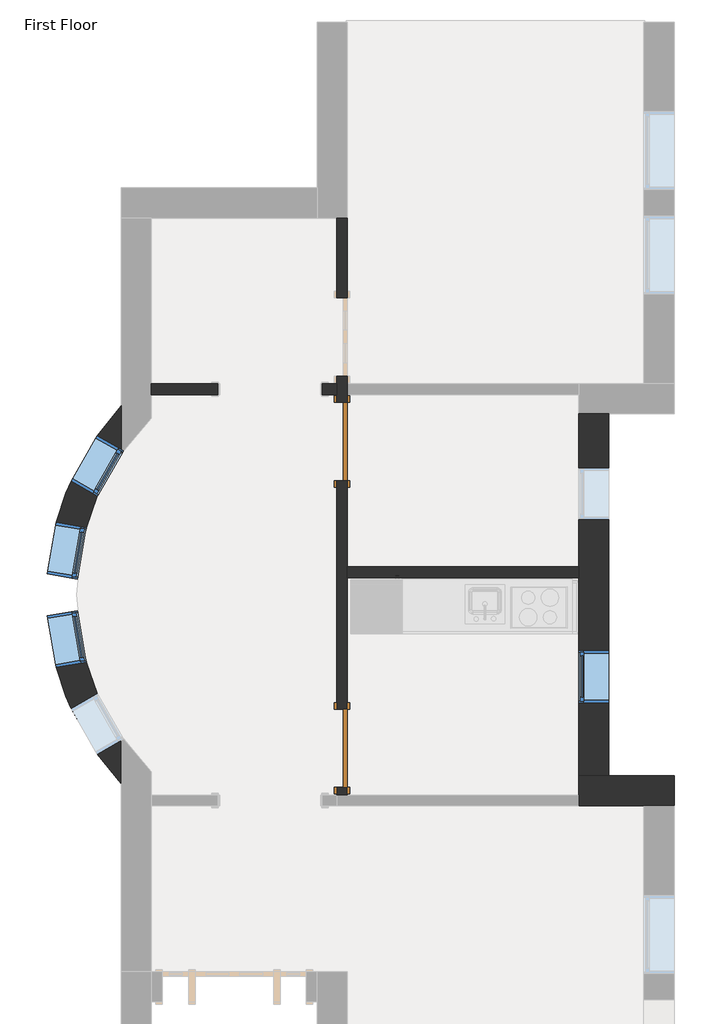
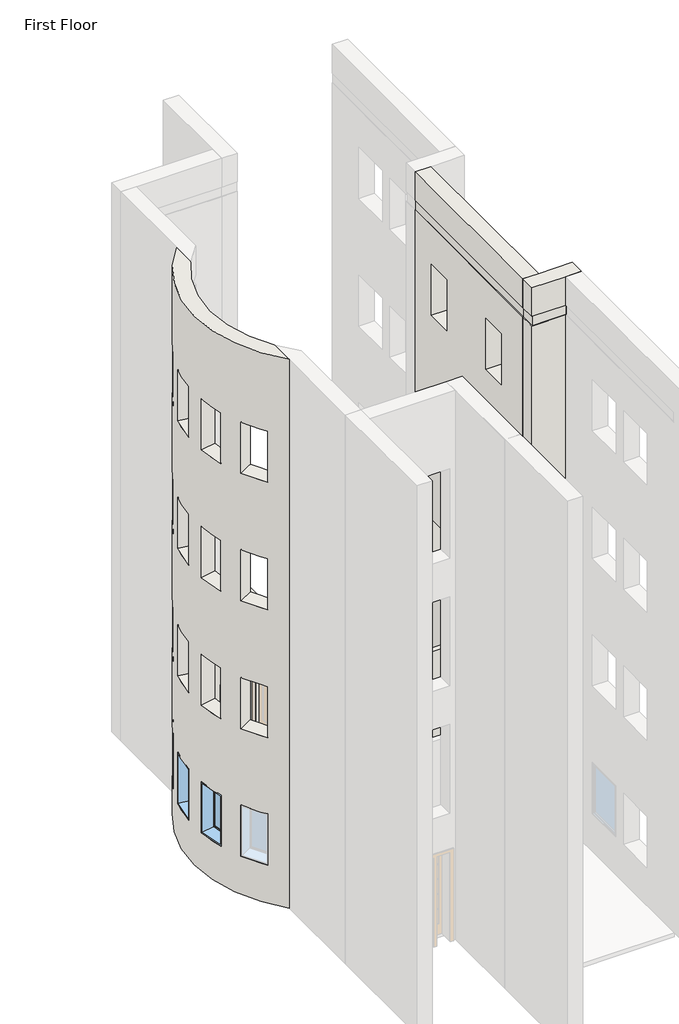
# One storey, part 7 of 23: 6 walls, 4 windows, 2 doors.
"""IFC4 building model written with IfcOpenShell, lengths in millimetres."""

from ifc_helpers import new_model, si_unit, frame, origin, origin_with_axes, place, context, project, spatial, polyline, circle_curve, outline, extrude, faceted_brep, transform, mapped, element, save
from ifc_brep_helpers import plane_surface, cylinder_surface, revolved_surface, advanced_brep
from components import door_a1797ceb, door_a3eb833a, window_60baf983, window_ed80354a

model = new_model("IFC4")

# Units and contexts
model_context = context("Model", 3, world=origin())
ifc_project = project(units=[si_unit("LENGTHUNIT", "METRE", prefix="MILLI")], contexts=[model_context])

# Site, building, storey
site = spatial("IfcSite", under=ifc_project)
building = spatial("IfcBuilding", under=site)
storey = spatial("IfcBuildingStorey", under=building, Name="First Floor", Elevation=0.0)

# Doors
placement = place(None, origin())
door_shape = door_a1797ceb(model_context)
element("IfcDoor", 1, ObjectType="Single-Flush : 36\" x 84\"", at=placement, inside=storey, context=model_context, shape_type="MappedRepresentation", body=[
    mapped(door_shape, transform((-3900.4589563, -20451.2808133, 0.0), x_axis=(0.0, -1.0, 0.0), y_axis=(1.0, 0.0, 0.0), z_axis=(0.0, 0.0, 1.0))),
])
door_2_shape = door_a3eb833a(model_context)
element("IfcDoor", 2, ObjectType="Single-Flush : 36\" x 84\"", at=placement, inside=storey, context=model_context, shape_type="MappedRepresentation", body=[
    mapped(door_2_shape, transform((-3900.4589563, -16873.0558133, 0.0), x_axis=(0.0, 1.0, 0.0), y_axis=(-1.0, 0.0, 0.0), z_axis=(0.0, 0.0, 1.0))),
])

# Walls
element("IfcWall", 3, ObjectType="Exterior - Brick on Mtl. Stud", at=placement, inside=storey, context=model_context, shape_type="Brep", body=[
    faceted_brep([(-1141.3839563, -16552.3808133, 0.0), (-1141.3839563, -18333.5558133, 0.0), (-1141.3839563, -18460.5558133, 0.0), (-1141.3839563, -20771.9558133, 0.0), (-1141.3839563, -20771.9558133, 12192.0), (-1141.3839563, -18460.5558133, 12192.0), (-1141.3839563, -18333.5558133, 12192.0), (-1141.3839563, -16552.3808133, 12192.0), (-1141.3839563, -17177.8558133, 7010.4), (-1141.3839563, -17177.8558133, 8229.6), (-1141.3839563, -17787.4558133, 8229.6), (-1141.3839563, -17787.4558133, 7010.4), (-1141.3839563, -19311.4558133, 7010.4), (-1141.3839563, -19311.4558133, 8229.6), (-1141.3839563, -19921.0558133, 8229.6), (-1141.3839563, -19921.0558133, 7010.4), (-1141.3839563, -17177.8558133, 3962.4), (-1141.3839563, -17177.8558133, 5181.6), (-1141.3839563, -17787.4558133, 5181.6), (-1141.3839563, -17787.4558133, 3962.4), (-1141.3839563, -19311.4558133, 3962.4), (-1141.3839563, -19311.4558133, 5181.6), (-1141.3839563, -19921.0558133, 5181.6), (-1141.3839563, -19921.0558133, 3962.4), (-1141.3839563, -17177.8558133, 10058.4), (-1141.3839563, -17177.8558133, 11277.6), (-1141.3839563, -17787.4558133, 11277.6), (-1141.3839563, -17787.4558133, 10058.4), (-1141.3839563, -19311.4558133, 10058.4), (-1141.3839563, -19311.4558133, 11277.6), (-1141.3839563, -19921.0558133, 11277.6), (-1141.3839563, -19921.0558133, 10058.4), (-1141.3839563, -17177.8558133, 914.4), (-1141.3839563, -17177.8558133, 2133.6), (-1141.3839563, -17787.4558133, 2133.6), (-1141.3839563, -17787.4558133, 914.4), (-1141.3839563, -19311.4558133, 914.4), (-1141.3839563, -19311.4558133, 2133.6), (-1141.3839563, -19921.0558133, 2133.6), (-1141.3839563, -19921.0558133, 914.4), (-1141.3839563, -20771.9558133, 13106.4), (-1141.3839563, -16552.3808133, 13106.4), (-1141.3839563, -16552.3808133, 12420.6), (-1141.3839563, -20771.9558133, 12420.6), (-788.9589563, -20771.9558133, 0.0), (-788.9589563, -16552.3808133, 0.0), (-788.9589563, -16552.3808133, 13106.4), (-788.9589563, -20771.9558133, 13106.4), (-788.9589563, -17177.8558133, 8229.6), (-788.9589563, -17177.8558133, 7010.4), (-788.9589563, -17787.4558133, 7010.4), (-788.9589563, -17787.4558133, 8229.6), (-788.9589563, -19311.4558133, 8229.6), (-788.9589563, -19311.4558133, 7010.4), (-788.9589563, -19921.0558133, 7010.4), (-788.9589563, -19921.0558133, 8229.6), (-788.9589563, -17177.8558133, 5181.6), (-788.9589563, -17177.8558133, 3962.4), (-788.9589563, -17787.4558133, 3962.4), (-788.9589563, -17787.4558133, 5181.6), (-788.9589563, -19311.4558133, 5181.6), (-788.9589563, -19311.4558133, 3962.4), (-788.9589563, -19921.0558133, 3962.4), (-788.9589563, -19921.0558133, 5181.6), (-788.9589563, -17177.8558133, 11277.6), (-788.9589563, -17177.8558133, 10058.4), (-788.9589563, -17787.4558133, 10058.4), (-788.9589563, -17787.4558133, 11277.6), (-788.9589563, -19311.4558133, 11277.6), (-788.9589563, -19311.4558133, 10058.4), (-788.9589563, -19921.0558133, 10058.4), (-788.9589563, -19921.0558133, 11277.6), (-788.9589563, -17177.8558133, 2133.6), (-788.9589563, -17177.8558133, 914.4), (-788.9589563, -17787.4558133, 914.4), (-788.9589563, -17787.4558133, 2133.6), (-788.9589563, -19311.4558133, 2133.6), (-788.9589563, -19311.4558133, 914.4), (-788.9589563, -19921.0558133, 914.4), (-788.9589563, -19921.0558133, 2133.6), (-1128.6839563, -16552.3808133, 12192.0), (-1128.6839563, -16552.3808133, 12420.6), (-1128.6839563, -20771.9558133, 12420.6), (-1128.6839563, -20771.9558133, 12192.0)], [[[0, 1, 2, 3, 4, 5, 6, 7], [8, 9, 10, 11], [12, 13, 14, 15], [16, 17, 18, 19], [20, 21, 22, 23], [24, 25, 26, 27], [28, 29, 30, 31], [32, 33, 34, 35], [36, 37, 38, 39]], [[40, 41, 42, 43]], [[44, 45, 46, 47], [48, 49, 50, 51], [52, 53, 54, 55], [56, 57, 58, 59], [60, 61, 62, 63], [64, 65, 66, 67], [68, 69, 70, 71], [72, 73, 74, 75], [76, 77, 78, 79]], [[3, 2, 1, 0, 45, 44]], [[41, 40, 47, 46]], [[41, 46, 45, 0, 7, 80, 81, 42]], [[3, 44, 47, 40, 43, 82, 83, 4]], [[49, 48, 9, 8]], [[50, 49, 8, 11]], [[51, 50, 11, 10]], [[48, 51, 10, 9]], [[53, 52, 13, 12]], [[54, 53, 12, 15]], [[55, 54, 15, 14]], [[52, 55, 14, 13]], [[57, 56, 17, 16]], [[58, 57, 16, 19]], [[59, 58, 19, 18]], [[56, 59, 18, 17]], [[61, 60, 21, 20]], [[62, 61, 20, 23]], [[63, 62, 23, 22]], [[60, 63, 22, 21]], [[65, 64, 25, 24]], [[66, 65, 24, 27]], [[67, 66, 27, 26]], [[64, 67, 26, 25]], [[69, 68, 29, 28]], [[70, 69, 28, 31]], [[71, 70, 31, 30]], [[68, 71, 30, 29]], [[73, 72, 33, 32]], [[74, 73, 32, 35]], [[75, 74, 35, 34]], [[72, 75, 34, 33]], [[77, 76, 37, 36]], [[78, 77, 36, 39]], [[79, 78, 39, 38]], [[76, 79, 38, 37]], [[83, 80, 7, 6, 5, 4]], [[81, 82, 43, 42]], [[80, 83, 82, 81]]]),
])
element("IfcWall", 4, ObjectType="Exterior - Brick on Mtl. Stud", at=placement, inside=storey, context=model_context, shape_type="Brep", body=[
    faceted_brep([(-1141.3839563, -21124.3808133, 0.0), (-379.3839563, -21124.3808133, 0.0), (-26.9589563, -21124.3808133, 0.0), (-26.9589563, -21124.3808133, 13106.4), (-379.3839563, -21124.3808133, 13106.4), (-1141.3839563, -21124.3808133, 13106.4), (-1141.3839563, -21124.3808133, 12420.6), (-379.3839563, -21124.3808133, 12420.6), (-366.6839563, -21124.3808133, 12420.6), (-366.6839563, -21124.3808133, 12192.0), (-379.3839563, -21124.3808133, 12192.0), (-1141.3839563, -21124.3808133, 12192.0), (-1141.3839563, -21124.3808133, 9144.0), (-1141.3839563, -21124.3808133, 6096.0), (-1141.3839563, -21124.3808133, 3048.0), (-26.9589563, -20771.9558133, 0.0), (-788.9589563, -20771.9558133, 0.0), (-1141.3839563, -20771.9558133, 0.0), (-1141.3839563, -20771.9558133, 12192.0), (-1128.6839563, -20771.9558133, 12192.0), (-1128.6839563, -20771.9558133, 12420.6), (-1141.3839563, -20771.9558133, 12420.6), (-1141.3839563, -20771.9558133, 13106.4), (-788.9589563, -20771.9558133, 13106.4), (-26.9589563, -20771.9558133, 13106.4), (-1141.3839563, -20997.3808133, 0.0), (-1141.3839563, -20997.3808133, 12192.0), (-366.6839563, -21111.6808133, 12192.0), (-1128.6839563, -21111.6808133, 12192.0), (-1128.6839563, -21111.6808133, 12420.6), (-366.6839563, -21111.6808133, 12420.6)], [[[0, 1, 2, 3, 4, 5, 6, 7, 8, 9, 10, 11, 12, 13, 14]], [[15, 16, 17, 18, 19, 20, 21, 22, 23, 24]], [[2, 1, 0, 25, 17, 16, 15]], [[5, 4, 3, 24, 23, 22]], [[17, 25, 0, 14, 13, 12, 11, 26, 18]], [[5, 22, 21, 6]], [[3, 2, 15, 24]], [[27, 28, 19, 18, 26, 11, 10, 9]], [[29, 30, 8, 7, 6, 21, 20]], [[28, 29, 20, 19]], [[28, 27, 30, 29]], [[30, 27, 9, 8]]]),
])
element("IfcWall", 5, ObjectType="Exterior - Brick on Mtl. Stud", at=placement, inside=storey, context=model_context, shape_type="AdvancedBrep", body=[
    advanced_brep(
    [(-6475.3839563, -20308.6589631, 13106.4), (-6475.3839563, -17015.6776635, 13106.4), (-6475.3839563, -16457.7830793, 13106.4), (-6475.3839563, -20866.5535473, 13106.4), (-6475.3839563, -17015.6776635, 0.0), (-6475.3839563, -20308.6589631, 0.0), (-6475.3839563, -20866.5535473, 0.0), (-6475.3839563, -16457.7830793, 0.0), (-6475.3839563, -20308.6589631, 12420.6), (-6475.3839563, -17015.6776635, 12420.6), (-6475.3839563, -17015.6776635, 914.4), (-6752.944107, -17509.893074, 914.4), (-6752.944107, -17509.893074, 2133.6), (-6475.3839563, -17015.6776635, 2133.6), (-6475.3839563, -17015.6776635, 3962.4), (-6752.944107, -17509.893074, 3962.4), (-6752.944107, -17509.893074, 5181.6), (-6475.3839563, -17015.6776635, 5181.6), (-6475.3839563, -17015.6776635, 7010.4), (-6752.944107, -17509.893074, 7010.4), (-6752.944107, -17509.893074, 8229.6), (-6475.3839563, -17015.6776635, 8229.6), (-6475.3839563, -17015.6776635, 10058.4), (-6752.944107, -17509.893074, 10058.4), (-6752.944107, -17509.893074, 11277.6), (-6475.3839563, -17015.6776635, 11277.6), (-6475.3839563, -17015.6776635, 12192.0), (-6475.3839563, -20308.6589631, 12192.0), (-6475.3839563, -20308.6589631, 11277.6), (-6752.944107, -19814.4435526, 11277.6), (-6752.944107, -19814.4435526, 10058.4), (-6475.3839563, -20308.6589631, 10058.4), (-6475.3839563, -20308.6589631, 8229.6), (-6752.944107, -19814.4435526, 8229.6), (-6752.944107, -19814.4435526, 7010.4), (-6475.3839563, -20308.6589631, 7010.4), (-6475.3839563, -20308.6589631, 5181.6), (-6752.944107, -19814.4435526, 5181.6), (-6752.944107, -19814.4435526, 3962.4), (-6475.3839563, -20308.6589631, 3962.4), (-6475.3839563, -20308.6589631, 2133.6), (-6752.944107, -19814.4435526, 2133.6), (-6752.944107, -19814.4435526, 914.4), (-6475.3839563, -20308.6589631, 914.4), (-6988.33136, -18846.4727595, 8229.6), (-6988.33136, -18846.4727595, 7010.4), (-6884.862554, -19447.2275899, 7010.4), (-6884.862554, -19447.2275899, 8229.6), (-6988.33136, -18477.8638671, 7010.4), (-6988.33136, -18477.8638671, 8229.6), (-6884.862554, -17877.1090368, 8229.6), (-6884.862554, -17877.1090368, 7010.4), (-6988.33136, -18846.4727595, 5181.6), (-6988.33136, -18846.4727595, 3962.4), (-6884.862554, -19447.2275899, 3962.4), (-6884.862554, -19447.2275899, 5181.6), (-6988.33136, -18477.8638671, 3962.4), (-6988.33136, -18477.8638671, 5181.6), (-6884.862554, -17877.1090368, 5181.6), (-6884.862554, -17877.1090368, 3962.4), (-6988.33136, -18846.4727595, 11277.6), (-6988.33136, -18846.4727595, 10058.4), (-6884.862554, -19447.2275899, 10058.4), (-6884.862554, -19447.2275899, 11277.6), (-6988.33136, -18477.8638671, 10058.4), (-6988.33136, -18477.8638671, 11277.6), (-6884.862554, -17877.1090368, 11277.6), (-6884.862554, -17877.1090368, 10058.4), (-6988.33136, -18846.4727595, 2133.6), (-6988.33136, -18846.4727595, 914.4), (-6884.862554, -19447.2275899, 914.4), (-6884.862554, -19447.2275899, 2133.6), (-6988.33136, -18477.8638671, 914.4), (-6988.33136, -18477.8638671, 2133.6), (-6884.862554, -17877.1090368, 2133.6), (-6884.862554, -17877.1090368, 914.4), (-7060.4709271, -17334.1389611, 2133.6), (-7060.4709271, -17334.1389611, 914.4), (-6757.9928429, -16804.8761071, 914.4), (-6757.9928429, -16804.8761071, 2133.6), (-7060.4709271, -19990.1976656, 914.4), (-7060.4709271, -19990.1976656, 2133.6), (-6757.9928429, -20519.4605195, 2133.6), (-6757.9928429, -20519.4605195, 914.4), (-7060.4709271, -17334.1389611, 11277.6), (-7060.4709271, -17334.1389611, 10058.4), (-6757.9928429, -16804.8761071, 10058.4), (-6757.9928429, -16804.8761071, 11277.6), (-7060.4709271, -19990.1976656, 10058.4), (-7060.4709271, -19990.1976656, 11277.6), (-6757.9928429, -20519.4605195, 11277.6), (-6757.9928429, -20519.4605195, 10058.4), (-7060.4709271, -17334.1389611, 5181.6), (-7060.4709271, -17334.1389611, 3962.4), (-6757.9928429, -16804.8761071, 3962.4), (-6757.9928429, -16804.8761071, 5181.6), (-7060.4709271, -19990.1976656, 3962.4), (-7060.4709271, -19990.1976656, 5181.6), (-6757.9928429, -20519.4605195, 5181.6), (-6757.9928429, -20519.4605195, 3962.4), (-7060.4709271, -17334.1389611, 8229.6), (-7060.4709271, -17334.1389611, 7010.4), (-6757.9928429, -16804.8761071, 7010.4), (-6757.9928429, -16804.8761071, 8229.6), (-7060.4709271, -19990.1976656, 7010.4), (-7060.4709271, -19990.1976656, 8229.6), (-6757.9928429, -20519.4605195, 8229.6), (-6757.9928429, -20519.4605195, 7010.4), (-7337.3984091, -18906.5930431, 7010.4), (-7337.3984091, -18906.5930431, 8229.6), (-7233.9296032, -19507.3478734, 8229.6), (-7233.9296032, -19507.3478734, 7010.4), (-7337.3984091, -18417.7435836, 8229.6), (-7337.3984091, -18417.7435836, 7010.4), (-7233.9296032, -17816.9887532, 7010.4), (-7233.9296032, -17816.9887532, 8229.6), (-7337.3984091, -18906.5930431, 3962.4), (-7337.3984091, -18906.5930431, 5181.6), (-7233.9296032, -19507.3478734, 5181.6), (-7233.9296032, -19507.3478734, 3962.4), (-7337.3984091, -18417.7435836, 5181.6), (-7337.3984091, -18417.7435836, 3962.4), (-7233.9296032, -17816.9887532, 3962.4), (-7233.9296032, -17816.9887532, 5181.6), (-7337.3984091, -18906.5930431, 10058.4), (-7337.3984091, -18906.5930431, 11277.6), (-7233.9296032, -19507.3478734, 11277.6), (-7233.9296032, -19507.3478734, 10058.4), (-7337.3984091, -18417.7435836, 11277.6), (-7337.3984091, -18417.7435836, 10058.4), (-7233.9296032, -17816.9887532, 10058.4), (-7233.9296032, -17816.9887532, 11277.6), (-7337.3984091, -18906.5930431, 914.4), (-7337.3984091, -18906.5930431, 2133.6), (-7233.9296032, -19507.3478734, 2133.6), (-7233.9296032, -19507.3478734, 914.4), (-7337.3984091, -18417.7435836, 2133.6), (-7337.3984091, -18417.7435836, 914.4), (-7233.9296032, -17816.9887532, 914.4), (-7233.9296032, -17816.9887532, 2133.6), (-6475.3839563, -20357.947211, 914.4), (-6475.3839563, -20357.947211, 2133.6), (-6475.3839563, -20357.947211, 3962.4), (-6475.3839563, -20357.947211, 5181.6), (-6475.3839563, -20357.947211, 7010.4), (-6475.3839563, -20357.947211, 8229.6), (-6475.3839563, -20357.947211, 10058.4), (-6475.3839563, -20357.947211, 11277.6), (-6475.3839563, -20617.1458841, 12192.0), (-6475.3839563, -20617.1458841, 12420.6), (-6475.3839563, -16707.1907425, 12420.6), (-6475.3839563, -16707.1907425, 12192.0), (-6475.3839563, -16966.3894156, 11277.6), (-6475.3839563, -16966.3894156, 10058.4), (-6475.3839563, -16966.3894156, 8229.6), (-6475.3839563, -16966.3894156, 7010.4), (-6475.3839563, -16966.3894156, 5181.6), (-6475.3839563, -16966.3894156, 3962.4), (-6475.3839563, -16966.3894156, 2133.6), (-6475.3839563, -16966.3894156, 914.4)],
    [
        (0, 1, circle_curve(frame((-4122.4640713, -18662.1683133, 13106.4), z_axis=(0.0, 0.0, -1.0), x_axis=(0.0, -1.0, 0.0)), 2871.7875)),
        (1, 2),
        (2, 3, circle_curve(frame((-4122.4640713, -18662.1683133, 13106.4), z_axis=(0.0, 0.0, 1.0), x_axis=(0.0, -1.0, 0.0)), 3224.2125)),
        (3, 0),
        (4, 5, circle_curve(frame((-4122.4640713, -18662.1683133, 0.0), z_axis=(0.0, 0.0, 1.0), x_axis=(0.0, -1.0, 0.0)), 2871.7875)),
        (5, 6),
        (6, 7, circle_curve(frame((-4122.4640713, -18662.1683133, 0.0), z_axis=(0.0, 0.0, -1.0), x_axis=(0.0, -1.0, 0.0)), 3224.2125)),
        (7, 4),
        (0, 8),
        (8, 9, circle_curve(frame((-4122.4640713, -18662.1683133, 12420.6), z_axis=(0.0, 0.0, -1.0), x_axis=(0.0, -1.0, 0.0)), 2871.7875)),
        (9, 1),
        (4, 10),
        (10, 11, circle_curve(frame((-4122.4640713, -18662.1683133, 914.4), z_axis=(0.0, 0.0, 1.0), x_axis=(0.0, -1.0, 0.0)), 2871.7875)),
        (11, 12),
        (12, 13, circle_curve(frame((-4122.4640713, -18662.1683133, 2133.6), z_axis=(0.0, 0.0, -1.0), x_axis=(0.0, -1.0, 0.0)), 2871.7875)),
        (13, 14),
        (14, 15, circle_curve(frame((-4122.4640713, -18662.1683133, 3962.4), z_axis=(0.0, 0.0, 1.0), x_axis=(0.0, -1.0, 0.0)), 2871.7875)),
        (15, 16),
        (16, 17, circle_curve(frame((-4122.4640713, -18662.1683133, 5181.6), z_axis=(0.0, 0.0, -1.0), x_axis=(0.0, -1.0, 0.0)), 2871.7875)),
        (17, 18),
        (18, 19, circle_curve(frame((-4122.4640713, -18662.1683133, 7010.4), z_axis=(0.0, 0.0, 1.0), x_axis=(0.0, -1.0, 0.0)), 2871.7875)),
        (19, 20),
        (20, 21, circle_curve(frame((-4122.4640713, -18662.1683133, 8229.6), z_axis=(0.0, 0.0, -1.0), x_axis=(0.0, -1.0, 0.0)), 2871.7875)),
        (21, 22),
        (22, 23, circle_curve(frame((-4122.4640713, -18662.1683133, 10058.4), z_axis=(0.0, 0.0, 1.0), x_axis=(0.0, -1.0, 0.0)), 2871.7875)),
        (23, 24),
        (24, 25, circle_curve(frame((-4122.4640713, -18662.1683133, 11277.6), z_axis=(0.0, 0.0, -1.0), x_axis=(0.0, -1.0, 0.0)), 2871.7875)),
        (25, 26),
        (26, 27, circle_curve(frame((-4122.4640713, -18662.1683133, 12192.0), z_axis=(0.0, 0.0, 1.0), x_axis=(0.0, -1.0, 0.0)), 2871.7875)),
        (27, 28),
        (28, 29, circle_curve(frame((-4122.4640713, -18662.1683133, 11277.6), z_axis=(0.0, 0.0, -1.0), x_axis=(0.0, -1.0, 0.0)), 2871.7875)),
        (29, 30),
        (30, 31, circle_curve(frame((-4122.4640713, -18662.1683133, 10058.4), z_axis=(0.0, 0.0, 1.0), x_axis=(0.0, -1.0, 0.0)), 2871.7875)),
        (31, 32),
        (32, 33, circle_curve(frame((-4122.4640713, -18662.1683133, 8229.6), z_axis=(0.0, 0.0, -1.0), x_axis=(0.0, -1.0, 0.0)), 2871.7875)),
        (33, 34),
        (34, 35, circle_curve(frame((-4122.4640713, -18662.1683133, 7010.4), z_axis=(0.0, 0.0, 1.0), x_axis=(0.0, -1.0, 0.0)), 2871.7875)),
        (35, 36),
        (36, 37, circle_curve(frame((-4122.4640713, -18662.1683133, 5181.6), z_axis=(0.0, 0.0, -1.0), x_axis=(0.0, -1.0, 0.0)), 2871.7875)),
        (37, 38),
        (38, 39, circle_curve(frame((-4122.4640713, -18662.1683133, 3962.4), z_axis=(0.0, 0.0, 1.0), x_axis=(0.0, -1.0, 0.0)), 2871.7875)),
        (39, 40),
        (40, 41, circle_curve(frame((-4122.4640713, -18662.1683133, 2133.6), z_axis=(0.0, 0.0, -1.0), x_axis=(0.0, -1.0, 0.0)), 2871.7875)),
        (41, 42),
        (42, 43, circle_curve(frame((-4122.4640713, -18662.1683133, 914.4), z_axis=(0.0, 0.0, 1.0), x_axis=(0.0, -1.0, 0.0)), 2871.7875)),
        (43, 5),
        (44, 45),
        (45, 46, circle_curve(frame((-4122.4640713, -18662.1683133, 7010.4), z_axis=(0.0, 0.0, 1.0), x_axis=(0.0, -1.0, 0.0)), 2871.7875)),
        (46, 47),
        (47, 44, circle_curve(frame((-4122.4640713, -18662.1683133, 8229.6), z_axis=(0.0, 0.0, -1.0), x_axis=(0.0, -1.0, 0.0)), 2871.7875)),
        (48, 49),
        (49, 50, circle_curve(frame((-4122.4640713, -18662.1683133, 8229.6), z_axis=(0.0, 0.0, -1.0), x_axis=(0.0, -1.0, 0.0)), 2871.7875)),
        (50, 51),
        (51, 48, circle_curve(frame((-4122.4640713, -18662.1683133, 7010.4), z_axis=(0.0, 0.0, 1.0), x_axis=(0.0, -1.0, 0.0)), 2871.7875)),
        (52, 53),
        (53, 54, circle_curve(frame((-4122.4640713, -18662.1683133, 3962.4), z_axis=(0.0, 0.0, 1.0), x_axis=(0.0, -1.0, 0.0)), 2871.7875)),
        (54, 55),
        (55, 52, circle_curve(frame((-4122.4640713, -18662.1683133, 5181.6), z_axis=(0.0, 0.0, -1.0), x_axis=(0.0, -1.0, 0.0)), 2871.7875)),
        (56, 57),
        (57, 58, circle_curve(frame((-4122.4640713, -18662.1683133, 5181.6), z_axis=(0.0, 0.0, -1.0), x_axis=(0.0, -1.0, 0.0)), 2871.7875)),
        (58, 59),
        (59, 56, circle_curve(frame((-4122.4640713, -18662.1683133, 3962.4), z_axis=(0.0, 0.0, 1.0), x_axis=(0.0, -1.0, 0.0)), 2871.7875)),
        (60, 61),
        (61, 62, circle_curve(frame((-4122.4640713, -18662.1683133, 10058.4), z_axis=(0.0, 0.0, 1.0), x_axis=(0.0, -1.0, 0.0)), 2871.7875)),
        (62, 63),
        (63, 60, circle_curve(frame((-4122.4640713, -18662.1683133, 11277.6), z_axis=(0.0, 0.0, -1.0), x_axis=(0.0, -1.0, 0.0)), 2871.7875)),
        (64, 65),
        (65, 66, circle_curve(frame((-4122.4640713, -18662.1683133, 11277.6), z_axis=(0.0, 0.0, -1.0), x_axis=(0.0, -1.0, 0.0)), 2871.7875)),
        (66, 67),
        (67, 64, circle_curve(frame((-4122.4640713, -18662.1683133, 10058.4), z_axis=(0.0, 0.0, 1.0), x_axis=(0.0, -1.0, 0.0)), 2871.7875)),
        (68, 69),
        (69, 70, circle_curve(frame((-4122.4640713, -18662.1683133, 914.4), z_axis=(0.0, 0.0, 1.0), x_axis=(0.0, -1.0, 0.0)), 2871.7875)),
        (70, 71),
        (71, 68, circle_curve(frame((-4122.4640713, -18662.1683133, 2133.6), z_axis=(0.0, 0.0, -1.0), x_axis=(0.0, -1.0, 0.0)), 2871.7875)),
        (72, 73),
        (73, 74, circle_curve(frame((-4122.4640713, -18662.1683133, 2133.6), z_axis=(0.0, 0.0, -1.0), x_axis=(0.0, -1.0, 0.0)), 2871.7875)),
        (74, 75),
        (75, 72, circle_curve(frame((-4122.4640713, -18662.1683133, 914.4), z_axis=(0.0, 0.0, 1.0), x_axis=(0.0, -1.0, 0.0)), 2871.7875)),
        (2, 7),
        (6, 3),
        (76, 77),
        (77, 78, circle_curve(frame((-4122.4640713, -18662.1683133, 914.4), z_axis=(0.0, 0.0, -1.0), x_axis=(0.0, -1.0, 0.0)), 3224.2125)),
        (78, 79),
        (79, 76, circle_curve(frame((-4122.4640713, -18662.1683133, 2133.6), z_axis=(0.0, 0.0, 1.0), x_axis=(0.0, -1.0, 0.0)), 3224.2125)),
        (80, 81),
        (81, 82, circle_curve(frame((-4122.4640713, -18662.1683133, 2133.6), z_axis=(0.0, 0.0, 1.0), x_axis=(0.0, -1.0, 0.0)), 3224.2125)),
        (82, 83),
        (83, 80, circle_curve(frame((-4122.4640713, -18662.1683133, 914.4), z_axis=(0.0, 0.0, -1.0), x_axis=(0.0, -1.0, 0.0)), 3224.2125)),
        (84, 85),
        (85, 86, circle_curve(frame((-4122.4640713, -18662.1683133, 10058.4), z_axis=(0.0, 0.0, -1.0), x_axis=(0.0, -1.0, 0.0)), 3224.2125)),
        (86, 87),
        (87, 84, circle_curve(frame((-4122.4640713, -18662.1683133, 11277.6), z_axis=(0.0, 0.0, 1.0), x_axis=(0.0, -1.0, 0.0)), 3224.2125)),
        (88, 89),
        (89, 90, circle_curve(frame((-4122.4640713, -18662.1683133, 11277.6), z_axis=(0.0, 0.0, 1.0), x_axis=(0.0, -1.0, 0.0)), 3224.2125)),
        (90, 91),
        (91, 88, circle_curve(frame((-4122.4640713, -18662.1683133, 10058.4), z_axis=(0.0, 0.0, -1.0), x_axis=(0.0, -1.0, 0.0)), 3224.2125)),
        (92, 93),
        (93, 94, circle_curve(frame((-4122.4640713, -18662.1683133, 3962.4), z_axis=(0.0, 0.0, -1.0), x_axis=(0.0, -1.0, 0.0)), 3224.2125)),
        (94, 95),
        (95, 92, circle_curve(frame((-4122.4640713, -18662.1683133, 5181.6), z_axis=(0.0, 0.0, 1.0), x_axis=(0.0, -1.0, 0.0)), 3224.2125)),
        (96, 97),
        (97, 98, circle_curve(frame((-4122.4640713, -18662.1683133, 5181.6), z_axis=(0.0, 0.0, 1.0), x_axis=(0.0, -1.0, 0.0)), 3224.2125)),
        (98, 99),
        (99, 96, circle_curve(frame((-4122.4640713, -18662.1683133, 3962.4), z_axis=(0.0, 0.0, -1.0), x_axis=(0.0, -1.0, 0.0)), 3224.2125)),
        (100, 101),
        (101, 102, circle_curve(frame((-4122.4640713, -18662.1683133, 7010.4), z_axis=(0.0, 0.0, -1.0), x_axis=(0.0, -1.0, 0.0)), 3224.2125)),
        (102, 103),
        (103, 100, circle_curve(frame((-4122.4640713, -18662.1683133, 8229.6), z_axis=(0.0, 0.0, 1.0), x_axis=(0.0, -1.0, 0.0)), 3224.2125)),
        (104, 105),
        (105, 106, circle_curve(frame((-4122.4640713, -18662.1683133, 8229.6), z_axis=(0.0, 0.0, 1.0), x_axis=(0.0, -1.0, 0.0)), 3224.2125)),
        (106, 107),
        (107, 104, circle_curve(frame((-4122.4640713, -18662.1683133, 7010.4), z_axis=(0.0, 0.0, -1.0), x_axis=(0.0, -1.0, 0.0)), 3224.2125)),
        (108, 109),
        (109, 110, circle_curve(frame((-4122.4640713, -18662.1683133, 8229.6), z_axis=(0.0, 0.0, 1.0), x_axis=(0.0, -1.0, 0.0)), 3224.2125)),
        (110, 111),
        (111, 108, circle_curve(frame((-4122.4640713, -18662.1683133, 7010.4), z_axis=(0.0, 0.0, -1.0), x_axis=(0.0, -1.0, 0.0)), 3224.2125)),
        (112, 113),
        (113, 114, circle_curve(frame((-4122.4640713, -18662.1683133, 7010.4), z_axis=(0.0, 0.0, -1.0), x_axis=(0.0, -1.0, 0.0)), 3224.2125)),
        (114, 115),
        (115, 112, circle_curve(frame((-4122.4640713, -18662.1683133, 8229.6), z_axis=(0.0, 0.0, 1.0), x_axis=(0.0, -1.0, 0.0)), 3224.2125)),
        (116, 117),
        (117, 118, circle_curve(frame((-4122.4640713, -18662.1683133, 5181.6), z_axis=(0.0, 0.0, 1.0), x_axis=(0.0, -1.0, 0.0)), 3224.2125)),
        (118, 119),
        (119, 116, circle_curve(frame((-4122.4640713, -18662.1683133, 3962.4), z_axis=(0.0, 0.0, -1.0), x_axis=(0.0, -1.0, 0.0)), 3224.2125)),
        (120, 121),
        (121, 122, circle_curve(frame((-4122.4640713, -18662.1683133, 3962.4), z_axis=(0.0, 0.0, -1.0), x_axis=(0.0, -1.0, 0.0)), 3224.2125)),
        (122, 123),
        (123, 120, circle_curve(frame((-4122.4640713, -18662.1683133, 5181.6), z_axis=(0.0, 0.0, 1.0), x_axis=(0.0, -1.0, 0.0)), 3224.2125)),
        (124, 125),
        (125, 126, circle_curve(frame((-4122.4640713, -18662.1683133, 11277.6), z_axis=(0.0, 0.0, 1.0), x_axis=(0.0, -1.0, 0.0)), 3224.2125)),
        (126, 127),
        (127, 124, circle_curve(frame((-4122.4640713, -18662.1683133, 10058.4), z_axis=(0.0, 0.0, -1.0), x_axis=(0.0, -1.0, 0.0)), 3224.2125)),
        (128, 129),
        (129, 130, circle_curve(frame((-4122.4640713, -18662.1683133, 10058.4), z_axis=(0.0, 0.0, -1.0), x_axis=(0.0, -1.0, 0.0)), 3224.2125)),
        (130, 131),
        (131, 128, circle_curve(frame((-4122.4640713, -18662.1683133, 11277.6), z_axis=(0.0, 0.0, 1.0), x_axis=(0.0, -1.0, 0.0)), 3224.2125)),
        (132, 133),
        (133, 134, circle_curve(frame((-4122.4640713, -18662.1683133, 2133.6), z_axis=(0.0, 0.0, 1.0), x_axis=(0.0, -1.0, 0.0)), 3224.2125)),
        (134, 135),
        (135, 132, circle_curve(frame((-4122.4640713, -18662.1683133, 914.4), z_axis=(0.0, 0.0, -1.0), x_axis=(0.0, -1.0, 0.0)), 3224.2125)),
        (136, 137),
        (137, 138, circle_curve(frame((-4122.4640713, -18662.1683133, 914.4), z_axis=(0.0, 0.0, -1.0), x_axis=(0.0, -1.0, 0.0)), 3224.2125)),
        (138, 139),
        (139, 136, circle_curve(frame((-4122.4640713, -18662.1683133, 2133.6), z_axis=(0.0, 0.0, 1.0), x_axis=(0.0, -1.0, 0.0)), 3224.2125)),
        (43, 140),
        (140, 141),
        (141, 40),
        (39, 142),
        (142, 143),
        (143, 36),
        (35, 144),
        (144, 145),
        (145, 32),
        (31, 146),
        (146, 147),
        (147, 28),
        (27, 148),
        (148, 149),
        (149, 8),
        (9, 150),
        (150, 151),
        (151, 26),
        (25, 152),
        (152, 153),
        (153, 22),
        (21, 154),
        (154, 155),
        (155, 18),
        (17, 156),
        (156, 157),
        (157, 14),
        (13, 158),
        (158, 159),
        (159, 10),
        (76, 12),
        (11, 77),
        (159, 78),
        (158, 79),
        (41, 81),
        (80, 42),
        (83, 140),
        (82, 141),
        (84, 24),
        (23, 85),
        (153, 86),
        (152, 87),
        (29, 89),
        (88, 30),
        (91, 146),
        (90, 147),
        (92, 16),
        (15, 93),
        (157, 94),
        (156, 95),
        (37, 97),
        (96, 38),
        (99, 142),
        (98, 143),
        (100, 20),
        (19, 101),
        (155, 102),
        (154, 103),
        (33, 105),
        (104, 34),
        (107, 144),
        (106, 145),
        (44, 109),
        (108, 45),
        (111, 46),
        (110, 47),
        (112, 49),
        (48, 113),
        (51, 114),
        (50, 115),
        (52, 117),
        (116, 53),
        (119, 54),
        (118, 55),
        (120, 57),
        (56, 121),
        (59, 122),
        (58, 123),
        (60, 125),
        (124, 61),
        (127, 62),
        (126, 63),
        (128, 65),
        (64, 129),
        (67, 130),
        (66, 131),
        (68, 133),
        (132, 69),
        (135, 70),
        (134, 71),
        (136, 73),
        (72, 137),
        (75, 138),
        (74, 139),
        (151, 148, circle_curve(frame((-4122.4640713, -18662.1683133, 12192.0), z_axis=(0.0, 0.0, 1.0), x_axis=(0.0, -1.0, 0.0)), 3059.1125)),
        (149, 150, circle_curve(frame((-4122.4640713, -18662.1683133, 12420.6), z_axis=(0.0, 0.0, -1.0), x_axis=(0.0, -1.0, 0.0)), 3059.1125)),
    ],
    [
        plane_surface(frame((-4122.4640713, -21533.9558133, 13106.4), z_axis=(0.0, 0.0, 1.0), x_axis=(-1.0, 0.0, 0.0))),
        plane_surface(frame((-4122.4640713, -21533.9558133, 0.0), z_axis=(0.0, 0.0, -1.0), x_axis=(1.0, 0.0, 0.0))),
        revolved_surface(polyline([(-4122.4640713, -21533.9558133, 12420.6), (-4122.4640713, -21533.9558133, 13106.4)]), (-4122.4640713, -18662.1683133, 0.0), (0.0, 0.0, -1.0)),
        revolved_surface(polyline([(-4122.4640713, -21533.9558133, 0.0), (-4122.4640713, -21533.9558133, 12192.0)]), (-4122.4640713, -18662.1683133, 0.0), (0.0, 0.0, -1.0)),
        cylinder_surface(frame((-4122.4640713, -18662.1683133, 0.0), z_axis=(0.0, 0.0, 1.0), x_axis=(0.0, -1.0, 0.0)), 3224.2125),
        plane_surface(frame((-6475.3839563, -23234.1683133, 0.0), z_axis=(1.0, 0.0, 0.0), x_axis=(0.0, -1.0, 0.0))),
        plane_surface(frame((-6475.3839563, -14090.1683133, 0.0), z_axis=(1.0, 0.0, 0.0), x_axis=(0.0, -1.0, 0.0))),
        plane_surface(frame((-5735.7670595, -18091.2181421, 2133.6), z_axis=(0.49619108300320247, 0.8682133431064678, 0.0), x_axis=(-0.8682133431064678, 0.49619108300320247, 0.0))),
        plane_surface(frame((-5735.7670595, -18091.2181421, 914.4), z_axis=(0.0, 0.0, 1.0), x_axis=(-0.8682133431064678, 0.49619108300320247, 0.0))),
        plane_surface(frame((-5433.2889753, -17561.9552881, 914.4), z_axis=(-0.49619108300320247, -0.8682133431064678, 0.0), x_axis=(-0.8682133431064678, 0.49619108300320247, 0.0))),
        plane_surface(frame((-5433.2889753, -17561.9552881, 2133.6), z_axis=(0.0, 0.0, -1.0), x_axis=(-0.8682133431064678, 0.49619108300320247, 0.0))),
        plane_surface(frame((-8382.0813293, -20745.5089056, 2133.6), z_axis=(0.49619108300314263, -0.8682133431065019, 0.0), x_axis=(0.8682133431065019, 0.49619108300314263, 0.0))),
        plane_surface(frame((-8382.0813293, -20745.5089056, 914.4), z_axis=(0.0, 0.0, 1.0), x_axis=(0.8682133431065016, 0.49619108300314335, 0.0))),
        plane_surface(frame((-8079.6032451, -21274.7717595, 914.4), z_axis=(-0.49619108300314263, 0.8682133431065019, 0.0), x_axis=(0.8682133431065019, 0.49619108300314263, 0.0))),
        plane_surface(frame((-8079.6032451, -21274.7717595, 2133.6), z_axis=(0.0, 0.0, -1.0), x_axis=(0.8682133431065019, 0.49619108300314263, 0.0))),
        plane_surface(frame((-5735.7670595, -18091.2181421, 11277.6), z_axis=(0.49619108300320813, 0.8682133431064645, 0.0), x_axis=(-0.8682133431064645, 0.49619108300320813, 0.0))),
        plane_surface(frame((-5735.7670595, -18091.2181421, 10058.4), z_axis=(0.0, 0.0, 1.0), x_axis=(-0.8682133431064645, 0.49619108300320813, 0.0))),
        plane_surface(frame((-5433.2889753, -17561.9552881, 10058.4), z_axis=(-0.496191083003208, -0.8682133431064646, 0.0), x_axis=(-0.8682133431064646, 0.496191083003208, 0.0))),
        plane_surface(frame((-5433.2889753, -17561.9552881, 11277.6), z_axis=(0.0, 0.0, -1.0), x_axis=(-0.8682133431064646, 0.496191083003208, 0.0))),
        plane_surface(frame((-8382.0813293, -20745.5089056, 11277.6), z_axis=(0.49619108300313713, -0.8682133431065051, 0.0), x_axis=(0.8682133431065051, 0.49619108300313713, 0.0))),
        plane_surface(frame((-8382.0813293, -20745.5089056, 10058.4), z_axis=(0.0, 0.0, 1.0), x_axis=(0.8682133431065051, 0.49619108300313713, 0.0))),
        plane_surface(frame((-8079.6032451, -21274.7717595, 10058.4), z_axis=(-0.49619108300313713, 0.8682133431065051, 0.0), x_axis=(0.8682133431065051, 0.49619108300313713, 0.0))),
        plane_surface(frame((-8079.6032451, -21274.7717595, 11277.6), z_axis=(0.0, 0.0, -1.0), x_axis=(0.8682133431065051, 0.49619108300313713, 0.0))),
        plane_surface(frame((-5735.7670595, -18091.2181421, 5181.6), z_axis=(0.49619108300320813, 0.8682133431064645, 0.0), x_axis=(-0.8682133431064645, 0.49619108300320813, 0.0))),
        plane_surface(frame((-5735.7670595, -18091.2181421, 3962.4), z_axis=(0.0, 0.0, 1.0), x_axis=(-0.8682133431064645, 0.49619108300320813, 0.0))),
        plane_surface(frame((-5433.2889753, -17561.9552881, 3962.4), z_axis=(-0.496191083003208, -0.8682133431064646, 0.0), x_axis=(-0.8682133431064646, 0.496191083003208, 0.0))),
        plane_surface(frame((-5433.2889753, -17561.9552881, 5181.6), z_axis=(0.0, 0.0, -1.0), x_axis=(-0.8682133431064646, 0.496191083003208, 0.0))),
        plane_surface(frame((-8382.0813293, -20745.5089056, 5181.6), z_axis=(0.49619108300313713, -0.8682133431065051, 0.0), x_axis=(0.8682133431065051, 0.49619108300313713, 0.0))),
        plane_surface(frame((-8382.0813293, -20745.5089056, 3962.4), z_axis=(0.0, 0.0, 1.0), x_axis=(0.8682133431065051, 0.49619108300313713, 0.0))),
        plane_surface(frame((-8079.6032451, -21274.7717595, 3962.4), z_axis=(-0.49619108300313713, 0.8682133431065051, 0.0), x_axis=(0.8682133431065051, 0.49619108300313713, 0.0))),
        plane_surface(frame((-8079.6032451, -21274.7717595, 5181.6), z_axis=(0.0, 0.0, -1.0), x_axis=(0.8682133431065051, 0.49619108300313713, 0.0))),
        plane_surface(frame((-5735.7670595, -18091.2181421, 8229.6), z_axis=(0.49619108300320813, 0.8682133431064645, 0.0), x_axis=(-0.8682133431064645, 0.49619108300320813, 0.0))),
        plane_surface(frame((-5735.7670595, -18091.2181421, 7010.4), z_axis=(0.0, 0.0, 1.0), x_axis=(-0.8682133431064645, 0.49619108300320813, 0.0))),
        plane_surface(frame((-5433.2889753, -17561.9552881, 7010.4), z_axis=(-0.496191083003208, -0.8682133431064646, 0.0), x_axis=(-0.8682133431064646, 0.496191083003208, 0.0))),
        plane_surface(frame((-5433.2889753, -17561.9552881, 8229.6), z_axis=(0.0, 0.0, -1.0), x_axis=(-0.8682133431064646, 0.496191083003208, 0.0))),
        plane_surface(frame((-8382.0813293, -20745.5089056, 8229.6), z_axis=(0.49619108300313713, -0.8682133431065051, 0.0), x_axis=(0.8682133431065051, 0.49619108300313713, 0.0))),
        plane_surface(frame((-8382.0813293, -20745.5089056, 7010.4), z_axis=(0.0, 0.0, 1.0), x_axis=(0.8682133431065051, 0.49619108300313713, 0.0))),
        plane_surface(frame((-8079.6032451, -21274.7717595, 7010.4), z_axis=(-0.49619108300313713, 0.8682133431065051, 0.0), x_axis=(0.8682133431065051, 0.49619108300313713, 0.0))),
        plane_surface(frame((-8079.6032451, -21274.7717595, 8229.6), z_axis=(0.0, 0.0, -1.0), x_axis=(0.8682133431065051, 0.49619108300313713, 0.0))),
        plane_surface(frame((-6988.33136, -18846.4727595, 8229.6), z_axis=(0.1697322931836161, -0.9854902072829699, 0.0), x_axis=(-0.9854902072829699, -0.1697322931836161, 0.0))),
        plane_surface(frame((-6988.33136, -18846.4727595, 7010.4), z_axis=(0.0, 0.0, 1.0000000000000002), x_axis=(-0.985490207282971, -0.16973229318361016, 0.0))),
        plane_surface(frame((-6884.862554, -19447.2275899, 7010.4), z_axis=(-0.16973229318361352, 0.9854902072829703, 0.0), x_axis=(-0.9854902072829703, -0.16973229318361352, 0.0))),
        plane_surface(frame((-6884.862554, -19447.2275899, 8229.6), z_axis=(0.0, 0.0, -1.0), x_axis=(-0.9854902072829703, -0.16973229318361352, 0.0))),
        plane_surface(frame((-7337.3984091, -18417.7435836, 8229.6), z_axis=(0.1697322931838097, 0.9854902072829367, 0.0), x_axis=(0.9854902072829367, -0.1697322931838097, 0.0))),
        plane_surface(frame((-7337.3984091, -18417.7435836, 7010.4), z_axis=(0.0, 0.0, 1.0000000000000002), x_axis=(0.9854902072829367, -0.1697322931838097, 0.0))),
        plane_surface(frame((-7233.9296032, -17816.9887532, 7010.4), z_axis=(-0.16973229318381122, -0.9854902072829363, 0.0), x_axis=(0.9854902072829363, -0.16973229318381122, 0.0))),
        plane_surface(frame((-7233.9296032, -17816.9887532, 8229.6), z_axis=(0.0, 0.0, -1.0000000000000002), x_axis=(0.9854902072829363, -0.16973229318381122, 0.0))),
        plane_surface(frame((-6988.33136, -18846.4727595, 5181.6), z_axis=(0.1697322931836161, -0.9854902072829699, 0.0), x_axis=(-0.9854902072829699, -0.1697322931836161, 0.0))),
        plane_surface(frame((-6988.33136, -18846.4727595, 3962.4), z_axis=(0.0, 0.0, 1.0000000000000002), x_axis=(-0.985490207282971, -0.16973229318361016, 0.0))),
        plane_surface(frame((-6884.862554, -19447.2275899, 3962.4), z_axis=(-0.16973229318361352, 0.9854902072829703, 0.0), x_axis=(-0.9854902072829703, -0.16973229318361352, 0.0))),
        plane_surface(frame((-6884.862554, -19447.2275899, 5181.6), z_axis=(0.0, 0.0, -1.0), x_axis=(-0.9854902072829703, -0.16973229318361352, 0.0))),
        plane_surface(frame((-7337.3984091, -18417.7435836, 5181.6), z_axis=(0.1697322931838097, 0.9854902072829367, 0.0), x_axis=(0.9854902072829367, -0.1697322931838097, 0.0))),
        plane_surface(frame((-7337.3984091, -18417.7435836, 3962.4), z_axis=(0.0, 0.0, 1.0000000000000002), x_axis=(0.9854902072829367, -0.1697322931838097, 0.0))),
        plane_surface(frame((-7233.9296032, -17816.9887532, 3962.4), z_axis=(-0.16973229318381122, -0.9854902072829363, 0.0), x_axis=(0.9854902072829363, -0.16973229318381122, 0.0))),
        plane_surface(frame((-7233.9296032, -17816.9887532, 5181.6), z_axis=(0.0, 0.0, -1.0000000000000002), x_axis=(0.9854902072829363, -0.16973229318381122, 0.0))),
        plane_surface(frame((-6988.33136, -18846.4727595, 11277.6), z_axis=(0.1697322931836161, -0.9854902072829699, 0.0), x_axis=(-0.9854902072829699, -0.1697322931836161, 0.0))),
        plane_surface(frame((-6988.33136, -18846.4727595, 10058.4), z_axis=(0.0, 0.0, 1.0000000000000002), x_axis=(-0.985490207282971, -0.16973229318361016, 0.0))),
        plane_surface(frame((-6884.862554, -19447.2275899, 10058.4), z_axis=(-0.16973229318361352, 0.9854902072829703, 0.0), x_axis=(-0.9854902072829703, -0.16973229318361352, 0.0))),
        plane_surface(frame((-6884.862554, -19447.2275899, 11277.6), z_axis=(0.0, 0.0, -1.0), x_axis=(-0.9854902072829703, -0.16973229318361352, 0.0))),
        plane_surface(frame((-7337.3984091, -18417.7435836, 11277.6), z_axis=(0.1697322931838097, 0.9854902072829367, 0.0), x_axis=(0.9854902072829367, -0.1697322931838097, 0.0))),
        plane_surface(frame((-7337.3984091, -18417.7435836, 10058.4), z_axis=(0.0, 0.0, 1.0000000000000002), x_axis=(0.9854902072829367, -0.1697322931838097, 0.0))),
        plane_surface(frame((-7233.9296032, -17816.9887532, 10058.4), z_axis=(-0.16973229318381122, -0.9854902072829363, 0.0), x_axis=(0.9854902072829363, -0.16973229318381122, 0.0))),
        plane_surface(frame((-7233.9296032, -17816.9887532, 11277.6), z_axis=(0.0, 0.0, -1.0000000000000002), x_axis=(0.9854902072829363, -0.16973229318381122, 0.0))),
        plane_surface(frame((-6988.33136, -18846.4727595, 2133.6), z_axis=(0.1697322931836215, -0.985490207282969, 0.0), x_axis=(-0.985490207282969, -0.1697322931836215, 0.0))),
        plane_surface(frame((-6988.33136, -18846.4727595, 914.4), z_axis=(0.0, 0.0, 1.0), x_axis=(-0.985490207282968, -0.16973229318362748, 0.0))),
        plane_surface(frame((-6884.862554, -19447.2275899, 914.4), z_axis=(-0.16973229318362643, 0.9854902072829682, 0.0), x_axis=(-0.9854902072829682, -0.16973229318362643, 0.0))),
        plane_surface(frame((-6884.862554, -19447.2275899, 2133.6), z_axis=(0.0, 0.0, -1.0000000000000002), x_axis=(-0.9854902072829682, -0.16973229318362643, 0.0))),
        plane_surface(frame((-7337.3984091, -18417.7435836, 2133.6), z_axis=(0.1697322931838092, 0.9854902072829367, 0.0), x_axis=(0.9854902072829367, -0.1697322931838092, 0.0))),
        plane_surface(frame((-7337.3984091, -18417.7435836, 914.4), z_axis=(0.0, 0.0, 1.0), x_axis=(0.9854902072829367, -0.1697322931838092, 0.0))),
        plane_surface(frame((-7233.9296032, -17816.9887532, 914.4), z_axis=(-0.1697322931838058, -0.9854902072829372, 0.0), x_axis=(0.9854902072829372, -0.1697322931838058, 0.0))),
        plane_surface(frame((-7233.9296032, -17816.9887532, 2133.6), z_axis=(0.0, 0.0, -1.0), x_axis=(0.9854902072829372, -0.1697322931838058, 0.0))),
        plane_surface(frame((-366.6839563, -11967.6808133, 12192.0), z_axis=(0.0, 0.0, 1.0), x_axis=(1.0, 0.0, 0.0))),
        plane_surface(frame((-366.6839563, -11967.6808133, 12420.6), z_axis=(0.0, 0.0, -1.0), x_axis=(1.0, 0.0, 0.0))),
        revolved_surface(polyline([(-4122.4640713, -21721.2808133, 12420.6), (-4122.4640713, -21721.2808133, 12192.0)]), (-4122.4640713, -18662.1683133, 12192.0), (0.0, 0.0, 1.0)),
    ],
    [
        (0, [[1, 2, 3, 4]]),
        (1, [[5, 6, 7, 8]]),
        (2, [[-1, 9, 10, 11]]),
        (3, [[-5, 12, 13, 14, 15, 16, 17, 18, 19, 20, 21, 22, 23, 24, 25, 26, 27, 28, 29, 30, 31, 32, 33, 34, 35, 36, 37, 38, 39, 40, 41, 42, 43, 44, 45, 46], [47, 48, 49, 50], [51, 52, 53, 54], [55, 56, 57, 58], [59, 60, 61, 62], [63, 64, 65, 66], [67, 68, 69, 70], [71, 72, 73, 74], [75, 76, 77, 78]]),
        (4, [[-3, 79, -7, 80], [81, 82, 83, 84], [85, 86, 87, 88], [89, 90, 91, 92], [93, 94, 95, 96], [97, 98, 99, 100], [101, 102, 103, 104], [105, 106, 107, 108], [109, 110, 111, 112], [113, 114, 115, 116], [117, 118, 119, 120], [121, 122, 123, 124], [125, 126, 127, 128], [129, 130, 131, 132], [133, 134, 135, 136], [137, 138, 139, 140], [141, 142, 143, 144]]),
        (5, [[-4, -80, -6, -46, 145, 146, 147, -42, 148, 149, 150, -38, 151, 152, 153, -34, 154, 155, 156, -30, 157, 158, 159, -9]]),
        (6, [[-2, -11, 160, 161, 162, -28, 163, 164, 165, -24, 166, 167, 168, -20, 169, 170, 171, -16, 172, 173, 174, -12, -8, -79]]),
        (7, [[175, -14, 176, -81]]),
        (8, [[-176, -13, -174, 177, -82]]),
        (9, [[-177, -173, 178, -83]]),
        (10, [[-175, -84, -178, -172, -15]]),
        (11, [[179, -85, 180, -44]]),
        (12, [[-180, -88, 181, -145, -45]]),
        (13, [[-181, -87, 182, -146]]),
        (14, [[-179, -43, -147, -182, -86]]),
        (15, [[183, -26, 184, -89]]),
        (16, [[-184, -25, -165, 185, -90]]),
        (17, [[-185, -164, 186, -91]]),
        (18, [[-183, -92, -186, -163, -27]]),
        (19, [[187, -93, 188, -32]]),
        (20, [[-188, -96, 189, -154, -33]]),
        (21, [[-189, -95, 190, -155]]),
        (22, [[-187, -31, -156, -190, -94]]),
        (23, [[191, -18, 192, -97]]),
        (24, [[-192, -17, -171, 193, -98]]),
        (25, [[-193, -170, 194, -99]]),
        (26, [[-191, -100, -194, -169, -19]]),
        (27, [[195, -101, 196, -40]]),
        (28, [[-196, -104, 197, -148, -41]]),
        (29, [[-197, -103, 198, -149]]),
        (30, [[-195, -39, -150, -198, -102]]),
        (31, [[199, -22, 200, -105]]),
        (32, [[-200, -21, -168, 201, -106]]),
        (33, [[-201, -167, 202, -107]]),
        (34, [[-199, -108, -202, -166, -23]]),
        (35, [[203, -109, 204, -36]]),
        (36, [[-204, -112, 205, -151, -37]]),
        (37, [[-205, -111, 206, -152]]),
        (38, [[-203, -35, -153, -206, -110]]),
        (39, [[-47, 207, -113, 208]]),
        (40, [[-48, -208, -116, 209]]),
        (41, [[-49, -209, -115, 210]]),
        (42, [[-50, -210, -114, -207]]),
        (43, [[-117, 211, -51, 212]]),
        (44, [[-118, -212, -54, 213]]),
        (45, [[-119, -213, -53, 214]]),
        (46, [[-120, -214, -52, -211]]),
        (47, [[-55, 215, -121, 216]]),
        (48, [[-56, -216, -124, 217]]),
        (49, [[-57, -217, -123, 218]]),
        (50, [[-58, -218, -122, -215]]),
        (51, [[-125, 219, -59, 220]]),
        (52, [[-126, -220, -62, 221]]),
        (53, [[-127, -221, -61, 222]]),
        (54, [[-128, -222, -60, -219]]),
        (55, [[-63, 223, -129, 224]]),
        (56, [[-64, -224, -132, 225]]),
        (57, [[-65, -225, -131, 226]]),
        (58, [[-66, -226, -130, -223]]),
        (59, [[-133, 227, -67, 228]]),
        (60, [[-134, -228, -70, 229]]),
        (61, [[-135, -229, -69, 230]]),
        (62, [[-136, -230, -68, -227]]),
        (63, [[-71, 231, -137, 232]]),
        (64, [[-72, -232, -140, 233]]),
        (65, [[-73, -233, -139, 234]]),
        (66, [[-74, -234, -138, -231]]),
        (67, [[-141, 235, -75, 236]]),
        (68, [[-142, -236, -78, 237]]),
        (69, [[-143, -237, -77, 238]]),
        (70, [[-144, -238, -76, -235]]),
        (71, [[239, -157, -29, -162]]),
        (72, [[240, -160, -10, -159]]),
        (73, [[-239, -161, -240, -158]]),
    ],
),
])
element("IfcWall", 6, ObjectType="Interior - 5\" Partition (2-hr)", at=placement, inside=storey, context=model_context, shape_type="Brep", body=[
    faceted_brep([(-3963.9589563, -16111.0558133, 2133.6), (-3963.9589563, -16111.0558133, 0.0), (-3963.9589563, -16199.9558133, 0.0), (-3963.9589563, -16326.9558133, 0.0), (-3963.9589563, -16415.8558133, 0.0), (-3963.9589563, -16415.8558133, 2133.6), (-3963.9589563, -17330.2558133, 2133.6), (-3963.9589563, -17330.2558133, 0.0), (-3963.9589563, -19994.0808133, 0.0), (-3963.9589563, -19994.0808133, 2133.6), (-3963.9589563, -20908.4808133, 2133.6), (-3963.9589563, -20908.4808133, 0.0), (-3963.9589563, -20997.3808133, 0.0), (-3963.9589563, -20997.3808133, 3048.0), (-3963.9589563, -16326.9558133, 3048.0), (-3963.9589563, -16199.9558133, 3048.0), (-3963.9589563, -14266.3808133, 3048.0), (-3963.9589563, -14266.3808133, 0.0), (-3963.9589563, -15196.6558133, 0.0), (-3963.9589563, -15196.6558133, 2133.6), (-3836.9589563, -16415.8558133, 0.0), (-3836.9589563, -16326.9558133, 0.0), (-3836.9589563, -16199.9558133, 0.0), (-3836.9589563, -16111.0558133, 0.0), (-3836.9589563, -16111.0558133, 2133.6), (-3836.9589563, -15196.6558133, 2133.6), (-3836.9589563, -15196.6558133, 0.0), (-3836.9589563, -14266.3808133, 0.0), (-3836.9589563, -14266.3808133, 3048.0), (-3836.9589563, -16199.9558133, 3048.0), (-3836.9589563, -16326.9558133, 3048.0), (-3836.9589563, -18333.5558133, 3048.0), (-3836.9589563, -18460.5558133, 3048.0), (-3836.9589563, -20997.3808133, 3048.0), (-3836.9589563, -20997.3808133, 0.0), (-3836.9589563, -20908.4808133, 0.0), (-3836.9589563, -20908.4808133, 2133.6), (-3836.9589563, -19994.0808133, 2133.6), (-3836.9589563, -19994.0808133, 0.0), (-3836.9589563, -18460.5558133, 0.0), (-3836.9589563, -18333.5558133, 0.0), (-3836.9589563, -17330.2558133, 0.0), (-3836.9589563, -17330.2558133, 2133.6), (-3836.9589563, -16415.8558133, 2133.6)], [[[0, 1, 2, 3, 4, 5, 6, 7, 8, 9, 10, 11, 12, 13, 14, 15, 16, 17, 18, 19]], [[20, 21, 22, 23, 24, 25, 26, 27, 28, 29, 30, 31, 32, 33, 34, 35, 36, 37, 38, 39, 40, 41, 42, 43]], [[12, 11, 35, 34]], [[4, 3, 2, 1, 23, 22, 21, 20]], [[41, 40, 39, 38, 8, 7]], [[18, 17, 27, 26]], [[16, 15, 14, 13, 33, 32, 31, 30, 29, 28]], [[17, 16, 28, 27]], [[13, 12, 34, 33]], [[36, 35, 11, 10]], [[37, 36, 10, 9]], [[38, 37, 9, 8]], [[5, 4, 20, 43]], [[6, 5, 43, 42]], [[7, 6, 42, 41]], [[24, 23, 1, 0]], [[25, 24, 0, 19]], [[26, 25, 19, 18]]]),
])
element("IfcWall", 7, ObjectType="Interior - 5\" Partition (2-hr)", at=placement, inside=storey, context=model_context, shape_type="SweptSolid", body=[
    extrude(outline(polyline([(-1141.3839563, -18460.5558133), (-3836.9589563, -18460.5558133), (-3836.9589563, -18333.5558133), (-1141.3839563, -18333.5558133), (-1141.3839563, -18460.5558133)])), origin_with_axes(), (0.0, 0.0, 1.0), 3048.0),
])
element("IfcWall", 8, ObjectType="Interior - 5\" Partition (2-hr)", at=placement, inside=storey, context=model_context, shape_type="SweptSolid", body=[
    extrude(outline(polyline([(0.0, -6122.9589563), (0.0, -5348.2589563), (2133.6, -5348.2589563), (2133.6, -4129.0589563), (0.0, -4129.0589563), (0.0, -3963.9589563), (3048.0, -3963.9589563), (3048.0, -6122.9589563), (0.0, -6122.9589563)])), frame((0.0, -16326.9558133, 0.0), z_axis=(0.0, 1.0, 0.0), x_axis=(0.0, 0.0, 1.0)), (0.0, 0.0, 1.0), 127.0),
])

# Windows
window_shape = window_60baf983(model_context)
element("IfcWindow", 9, ObjectType="Fixed : 24\" x 48\"", at=placement, inside=storey, context=model_context, shape_type="MappedRepresentation", body=[
    mapped(window_shape, transform((-965.1714563, -19578.1558133, 0.0), x_axis=(0.0, 1.0, 0.0), y_axis=(-1.0, 0.0, 0.0), z_axis=(0.0, 0.0, 1.0))),
])
element("IfcWindow", 10, ObjectType="Fixed : 24\" x 48\"", at=placement, inside=storey, context=model_context, shape_type="MappedRepresentation", body=[
    mapped(window_shape, transform((-6773.5999888, -17190.9055042, 0.0), x_axis=(-0.49619108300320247, -0.8682133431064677, 0.0), y_axis=(0.8682133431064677, -0.49619108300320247, 0.0), z_axis=(0.0, 0.0, 1.0))),
])
element("IfcWindow", 11, ObjectType="Fixed : 24\" x 48\"", at=placement, inside=storey, context=model_context, shape_type="MappedRepresentation", body=[
    mapped(window_shape, transform((-7116.7194505, -18185.1246771, 0.0), x_axis=(-0.16973229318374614, -0.9854902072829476, 0.0), y_axis=(0.9854902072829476, -0.16973229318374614, 0.0), z_axis=(0.0, 0.0, 1.0))),
])
window_2_shape = window_ed80354a(model_context)
element("IfcWindow", 12, ObjectType="Fixed : 24\" x 48\"", at=placement, inside=storey, context=model_context, shape_type="MappedRepresentation", body=[
    mapped(window_2_shape, transform((-7116.7194505, -19139.2119495, 0.0), x_axis=(-0.16973229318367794, 0.9854902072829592, 0.0), y_axis=(-0.9854902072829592, -0.16973229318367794, 0.0), z_axis=(0.0, 0.0, 1.0))),
])

save(model, "model.ifc")
